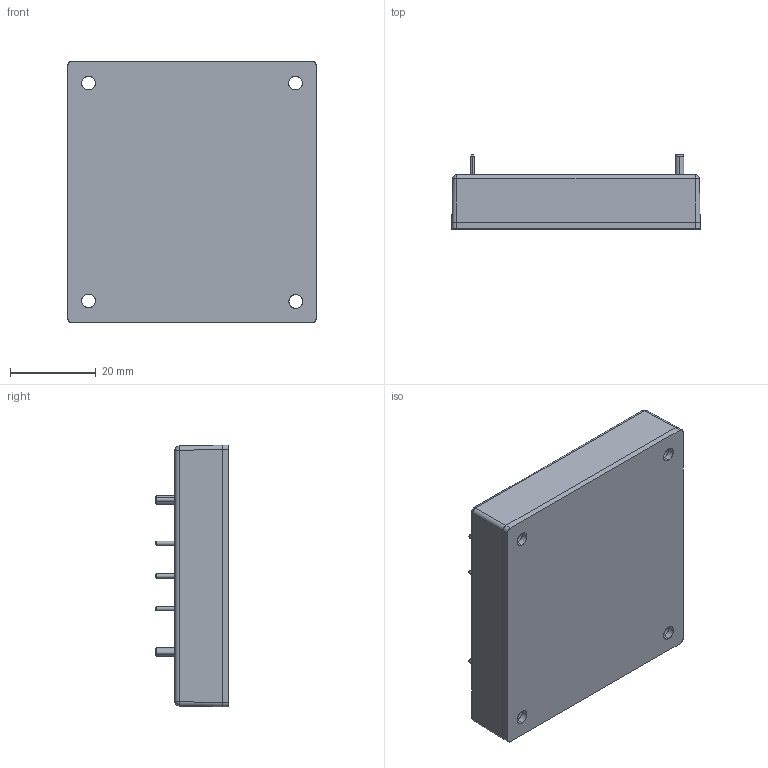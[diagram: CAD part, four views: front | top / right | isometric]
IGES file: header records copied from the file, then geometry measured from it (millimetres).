
Start section: SolidWorks IGES file using analytic representation for surfaces
Global section: file name: C:\Users\ksmith.XPNA\Desktop\RDH300\RDH300.IGS; native system: SolidWorks 2017; preprocessor: SolidWorks 2017; author: ksmith; date: 180611.090418; units: inch
Bounding box: 57.9 x 17.2 x 61 mm (x, y, z)
Surface area: 28878.6 mm2 (no closed solid volume)
Topology: 0 solids, 0 shells, 680 faces, 8045 edges, 8045 vertices
Faces by surface type: bspline 511, revolution 169
